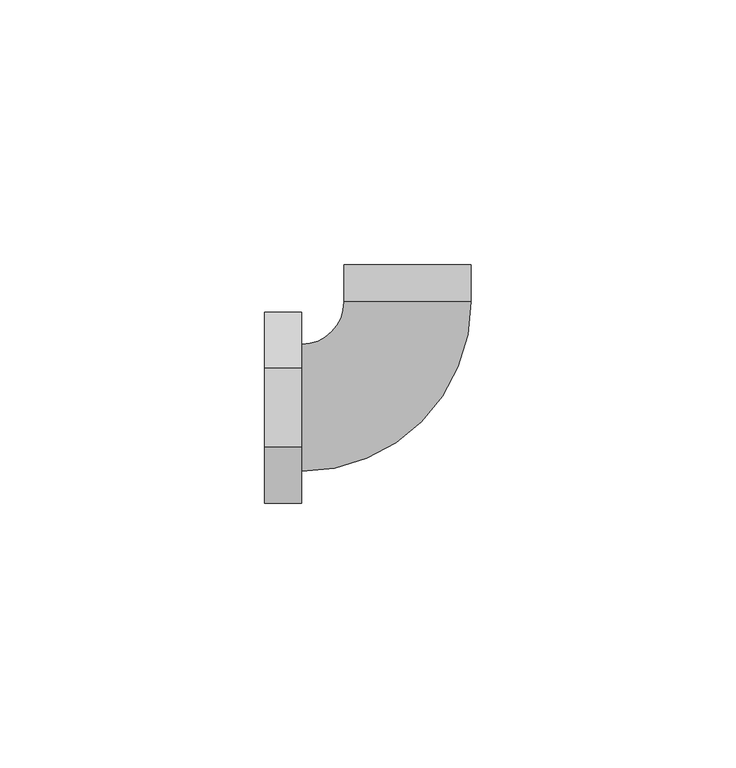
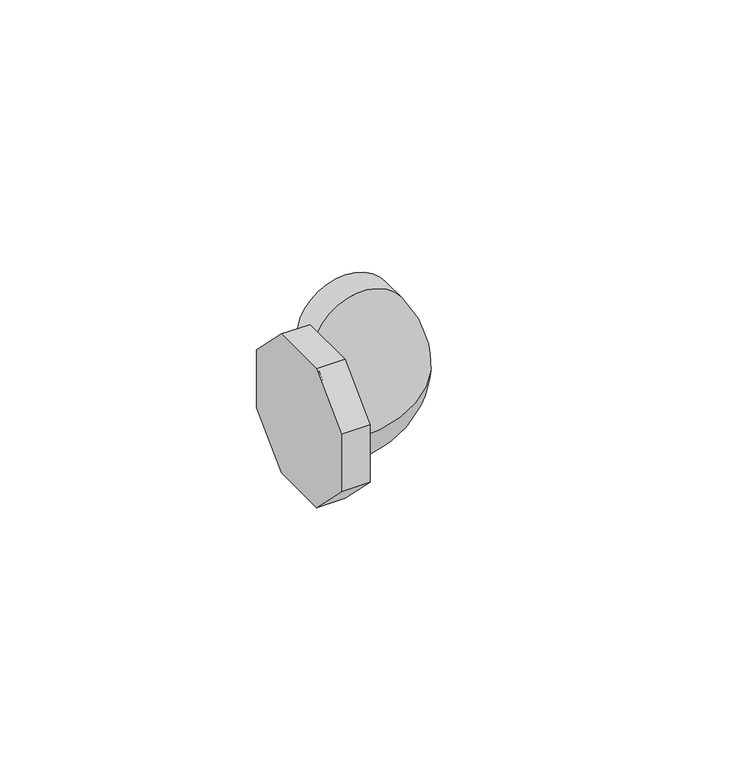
"""IFC4 building model written with IfcOpenShell, lengths in millimetres: pipe fitting geometry, PipeFitting_GirpiHTA_CPVC_ThreadedElbows90°_ForExpansionJoints : PipeFitting_GirpiHTA_CPVC_ThreadedElbows90°_ForExpansionJoints."""

from ifc_helpers import new_model, si_unit, point, frame, origin, place, context, project, spatial, polyline, circle_curve, ellipse_curve, trimmed, outline, extrude, source, transform, mapped, element, save
from ifc_brep_helpers import plane_surface, cylinder_surface, revolved_surface, advanced_brep


def pipe_fitting_74fe0cda(model_context):
    return source(origin(), model_context, "Body", "SolidModel", [
        extrude(outline(polyline([(-7.4558441, -18.0), (-18.0, -7.4558441), (-18.0, 7.4558441), (-7.4558441, 18.0), (7.4558441, 18.0), (18.0, 7.4558441), (18.0, -7.4558441), (7.4558441, -18.0), (-7.4558441, -18.0)])), frame((-27.0, 0.0, 0.0), z_axis=(1.0, 0.0, 0.0), x_axis=(0.0, 1.0, 0.0)), (0.0, 0.0, 1.0), 7.0),
        advanced_brep(
        [(-12.0, 20.0, 0.0), (-20.0, 12.0, 0.0), (-20.0, -12.0, 0.0), (12.0, 20.0, 0.0), (12.0, 27.0, 0.0), (-12.0, 27.0, 0.0)],
        [
            (0, 1, circle_curve(frame((-20.0, 20.0, 0.0), z_axis=(0.0, 0.0, -1.0), x_axis=(0.0, -1.0, 0.0)), 8.0)),
            (1, 2, circle_curve(frame((-20.0, 0.0, 0.0), z_axis=(1.0, 0.0, 0.0), x_axis=(0.0, 1.0, 0.0)), 12.0)),
            (2, 3, circle_curve(frame((-20.0, 20.0, 0.0), z_axis=(0.0, 0.0, 1.0), x_axis=(0.0, -1.0, 0.0)), 32.0)),
            (3, 0, circle_curve(frame((0.0, 20.0, 0.0), z_axis=(0.0, -1.0, 0.0), x_axis=(-1.0, 0.0, 0.0)), 12.0)),
            (2, 1, circle_curve(frame((-20.0, 0.0, 0.0), z_axis=(1.0, 0.0, 0.0), x_axis=(0.0, 1.0, 0.0)), 12.0)),
            (0, 3, circle_curve(frame((0.0, 20.0, 0.0), z_axis=(0.0, -1.0, 0.0), x_axis=(-1.0, 0.0, 0.0)), 12.0)),
            (4, 5, circle_curve(frame((0.0, 27.0, 0.0), z_axis=(0.0, 1.0, 0.0), x_axis=(-1.0, 0.0, 0.0)), 12.0)),
            (5, 4, circle_curve(frame((0.0, 27.0, 0.0), z_axis=(0.0, 1.0, 0.0), x_axis=(-1.0, 0.0, 0.0)), 12.0)),
            (3, 4),
            (5, 0),
        ],
        [
            revolved_surface(trimmed(ellipse_curve(frame((-20.0, 0.0, 0.0), z_axis=(-1.0, 0.0, 0.0), x_axis=(0.0, 1.0, 0.0)), 12.0, 12.0), [point((-20.0, -12.0, 0.0))], [point((-20.0, 12.0, 0.0))], True, "CARTESIAN"), (-20.0, 20.0, 0.0), (0.0, 0.0, 1.0)),
            revolved_surface(trimmed(ellipse_curve(frame((-20.0, 0.0, 0.0), z_axis=(-1.0, 0.0, 0.0), x_axis=(0.0, 1.0, 0.0)), 12.0, 12.0), [point((-20.0, 12.0, 0.0))], [point((-20.0, -12.0, 0.0))], True, "CARTESIAN"), (-20.0, 20.0, 0.0), (0.0, 0.0, 1.0)),
            plane_surface(frame((0.0, 27.0, 0.0), z_axis=(0.0, 1.0, 0.0), x_axis=(0.0, 0.0, 1.0))),
            cylinder_surface(frame((0.0, 20.0, 0.0), z_axis=(0.0, -1.0, 0.0), x_axis=(-1.0, 0.0, 0.0)), 12.0),
            plane_surface(frame((-20.0, 0.0, 0.0), z_axis=(-1.0, 0.0, 0.0), x_axis=(0.0, 0.0, 1.0))),
        ],
        [
            (0, [[1, 2, 3, 4]]),
            (1, [[-3, 5, -1, 6]]),
            (2, [[7, 8]]),
            (3, [[-4, 9, -8, 10]]),
            (3, [[-6, -10, -7, -9]]),
            (4, [[-2, -5]]),
        ],
    ),
    ])


if __name__ == "__main__":
    model = new_model("IFC4")
    model_context = context("Model", 3, world=origin())
    ifc_project = project(units=[si_unit("LENGTHUNIT", "METRE", prefix="MILLI")], contexts=[model_context])
    site = spatial("IfcSite", under=ifc_project)
    building = spatial("IfcBuilding", under=site)
    placement = place(None, origin())
    pipe_fitting_shape = pipe_fitting_74fe0cda(model_context)
    element("IfcPipeFitting", 1, ObjectType="PipeFitting_GirpiHTA_CPVC_ThreadedElbows90°_ForExpansionJoints : PipeFitting_GirpiHTA_CPVC_ThreadedElbows90°_ForExpansionJoints", at=placement, inside=building, context=model_context, shape_type="MappedRepresentation", body=[
        mapped(pipe_fitting_shape, transform((0.0, 0.0, 0.0), x_axis=(1.0, 0.0, 0.0), y_axis=(0.0, 1.0, 0.0), z_axis=(0.0, 0.0, 1.0))),
    ])
    save(model, "model.ifc")
